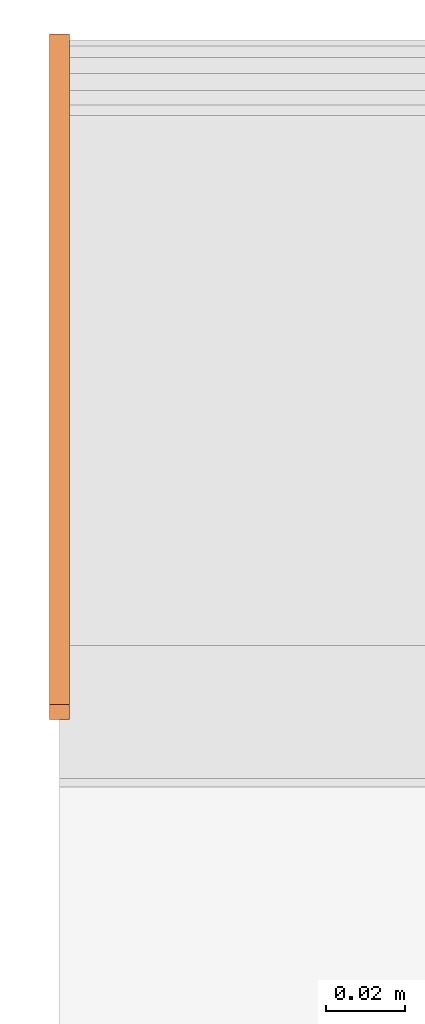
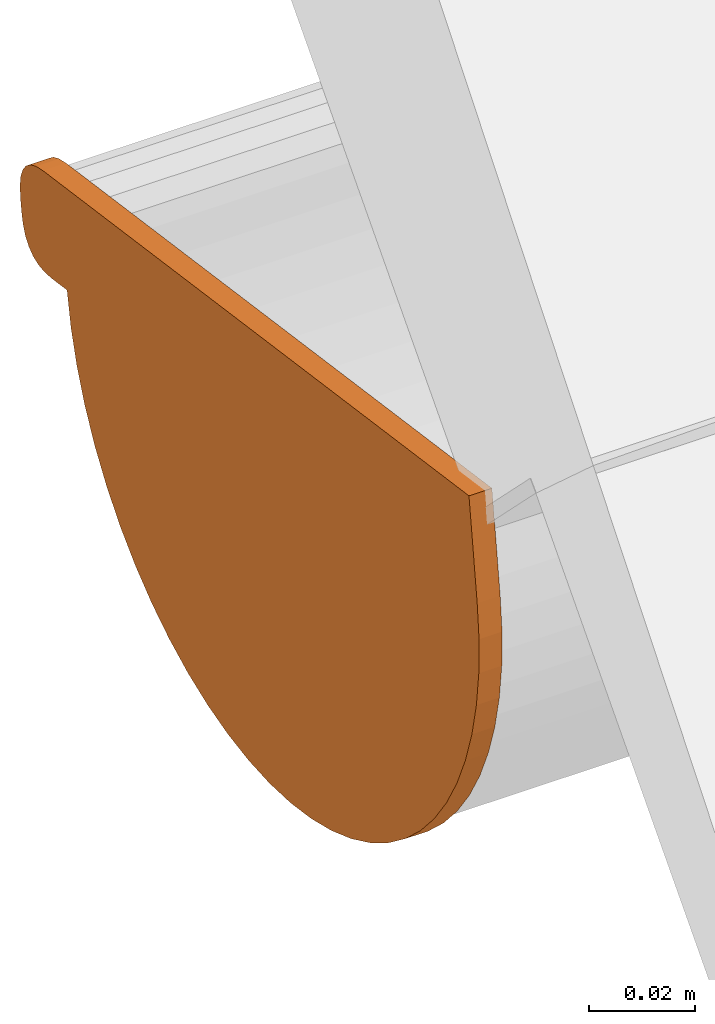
# One storey, part 32 of 43: 1 proxy.
"""IFC2X3 building model written with IfcOpenShell, lengths in millimetres."""

import ifcopenshell
import ifcopenshell.guid

model = None  # the IFC model being written
_history = None  # IfcOwnerHistory: only IFC2X3 demands one
_inside = {}  # id of a spatial element -> (the spatial element, [elements in it])
_under = {}  # id of a project, library or spatial element -> (it, [spatial elements below it])
_declared = {}  # id of a project -> (the project, [libraries it declares])
_typed = {}  # id of a type object -> (the type object, [elements of that type])
_made_of = {}  # id of a material, layer set ... -> (it, [elements and type objects made of it])


def new_model(schema):
    """Start an empty IFC model of exactly this schema.

    Asked for "IFC4X3", IfcOpenShell would pick the latest addendum, in which some entities
    have other attributes; the version numbers below select the first issue.
    IFC2X3 requires an IfcOwnerHistory on every rooted entity: one is made here for all.
    """
    global model, _history
    if schema == "IFC4X3":
        model = ifcopenshell.file(schema_version=(4, 3, 0, 0))
    else:
        model = ifcopenshell.file(schema=schema)
    _inside.clear()
    _under.clear()
    _declared.clear()
    _typed.clear()
    _made_of.clear()
    _history = None
    if model.schema == "IFC2X3":
        org = make("IfcOrganization", Name="unknown")
        user = make(
            "IfcPersonAndOrganization",
            ThePerson=make("IfcPerson", FamilyName="unknown"),
            TheOrganization=org,
        )
        app = make(
            "IfcApplication",
            ApplicationDeveloper=org,
            Version="unknown",
            ApplicationFullName="unknown",
            ApplicationIdentifier="unknown",
        )
        _history = make(
            "IfcOwnerHistory",
            OwningUser=user,
            OwningApplication=app,
            ChangeAction="ADDED",
            CreationDate=0,
        )
    return model


def make(cls, **values):
    """One entity of the class cls with the attributes given. An attribute that is None is left unset."""
    return model.create_entity(
        cls, **{name: value for name, value in values.items() if value is not None}
    )


def rooted(cls, **values):
    """An entity with a GlobalId (a new one), such as an element, a storey or a relation."""
    return make(cls, GlobalId=ifcopenshell.guid.new(), OwnerHistory=_history, **values)


def si_unit(unit_type, name, prefix=None):
    """IfcSIUnit, for example si_unit("LENGTHUNIT", "METRE", prefix="MILLI")."""
    return make("IfcSIUnit", UnitType=unit_type, Prefix=prefix, Name=name)


def assignment(units):
    """IfcUnitAssignment: the units of a project."""
    return None if units is None else make("IfcUnitAssignment", Units=units)


def point(xyz):
    """IfcCartesianPoint."""
    return None if xyz is None else make("IfcCartesianPoint", Coordinates=xyz)


def direction(xyz):
    """IfcDirection."""
    return None if xyz is None else make("IfcDirection", DirectionRatios=xyz)


def frame(location, z_axis=None, x_axis=None):
    """IfcAxis2Placement3D, a coordinate frame: its origin and axes. An axis left out is left unset."""
    return make(
        "IfcAxis2Placement3D",
        Location=point(location),
        Axis=direction(z_axis),
        RefDirection=direction(x_axis),
    )


def origin_with_axes():
    """The frame at (0, 0, 0) with the z axis (0, 0, 1) and the x axis (1, 0, 0) written out."""
    return frame((0.0, 0.0, 0.0), z_axis=(0.0, 0.0, 1.0), x_axis=(1.0, 0.0, 0.0))


def place(relative_to, where):
    """IfcLocalPlacement: puts the frame where relative to a parent placement (None: the world)."""
    return make(
        "IfcLocalPlacement", PlacementRelTo=relative_to, RelativePlacement=where
    )


def context(
    kind, dimensions, precision=None, world=None, true_north=None, identifier=None
):
    """IfcGeometricRepresentationContext, for example the 3D "Model" context."""
    return make(
        "IfcGeometricRepresentationContext",
        ContextIdentifier=identifier,
        ContextType=kind,
        CoordinateSpaceDimension=dimensions,
        Precision=precision,
        WorldCoordinateSystem=world,
        TrueNorth=true_north,
    )


def project(units=None, contexts=None):
    """IfcProject with its units and contexts."""
    return rooted(
        "IfcProject",
        Name="project",
        RepresentationContexts=contexts,
        UnitsInContext=assignment(units),
    )


def spatial(cls, under=None, at=None, **own):
    """A site, building, storey or space (cls), placed at a placement, below another one or the project."""
    s = rooted(cls, ObjectPlacement=at, **own)
    if under is not None:
        _under.setdefault(under.id(), (under, []))[1].append(s)
    return s


def faces_of(points, faces, orient=None, outer=None):
    """IfcFace entities. A face is a list of loops; a loop is a list of indices into points, from 0.

    orient and outer hold one flag for each loop. By default every Orientation is true, the
    first loop of a face is its IfcFaceOuterBound and the others are IfcFaceBound.
    """
    made = []
    for i, loops in enumerate(faces):
        bounds = []
        for j, loop in enumerate(loops):
            is_outer = j == 0 if outer is None else outer[i][j]
            bounds.append(
                make(
                    "IfcFaceOuterBound" if is_outer else "IfcFaceBound",
                    Bound=make("IfcPolyLoop", Polygon=[points[k] for k in loop]),
                    Orientation=True if orient is None else orient[i][j],
                )
            )
        made.append(make("IfcFace", Bounds=bounds))
    return made


def faceted_brep(points, faces, orient=None, outer=None, voids=None):
    """IfcFacetedBrep: a solid bounded by flat faces; with voids (closed shells), ...WithVoids."""
    shared = [point(p) for p in points]
    hull = make("IfcClosedShell", CfsFaces=faces_of(shared, faces, orient, outer))
    if voids is None:
        return make("IfcFacetedBrep", Outer=hull)
    return make(
        "IfcFacetedBrepWithVoids",
        Outer=hull,
        Voids=[
            make(cls, CfsFaces=faces_of(shared, fs, o, b)) for cls, fs, o, b in voids
        ],
    )


def shape(context_of_items, identifier, shape_type, items):
    """IfcShapeRepresentation: the items that make up one representation, for example the "Body"."""
    return make(
        "IfcShapeRepresentation",
        ContextOfItems=context_of_items,
        RepresentationIdentifier=identifier,
        RepresentationType=shape_type,
        Items=items,
    )


def made_of(thing, what):
    """Note that an element or type object is made of a material, layer set ...; save() writes the relation."""
    if what is not None:
        _made_of.setdefault(what.id(), (what, []))[1].append(thing)
    return thing


def element(
    cls,
    number,
    at=None,
    inside=None,
    cuts=None,
    type_object=None,
    material=None,
    context=None,
    identifier="Body",
    shape_type=None,
    held_by="IfcProductDefinitionShape",
    body=None,
    shapes=None,
    **own,
):
    """One element of the class cls, such as IfcWall. Its Tag is "e" and its number.

    at: its placement. inside: the storey or other place that contains it. cuts: it is an
    opening in that element (IfcRelVoidsElement). A single representation is given by context,
    identifier, shape_type and body (its items); several are given by shapes. held_by: the class
    of the entity that holds the representations. save() writes the other relations.
    """
    e = rooted(cls, Tag="e%d" % number, ObjectPlacement=at, **own)
    if body is not None:
        shapes = [shape(context, identifier, shape_type, body)]
    if shapes is not None:
        e.Representation = make(held_by, Representations=shapes)
    if inside is not None:
        _inside.setdefault(inside.id(), (inside, []))[1].append(e)
    if cuts is not None:
        rooted(
            "IfcRelVoidsElement", RelatingBuildingElement=cuts, RelatedOpeningElement=e
        )
    if type_object is not None:
        _typed.setdefault(type_object.id(), (type_object, []))[1].append(e)
    return made_of(e, material)


def aggregate(whole, parts):
    """IfcRelAggregates: a whole, such as a stair, and the parts it consists of."""
    return rooted("IfcRelAggregates", RelatingObject=whole, RelatedObjects=parts)


def save(model, path):
    """Write the relations noted so far, then the file.

    IfcRelAggregates (storeys below a building ...), IfcRelContainedInSpatialStructure (elements
    in a storey), IfcRelDefinesByType, IfcRelAssociatesMaterial and IfcRelDeclares: one each for
    every whole, place, type object, material and project.
    """
    for whole, parts in _under.values():
        aggregate(whole, parts)
    for where, things in _inside.values():
        rooted(
            "IfcRelContainedInSpatialStructure",
            RelatedElements=things,
            RelatingStructure=where,
        )
    for kind, things in _typed.values():
        rooted("IfcRelDefinesByType", RelatedObjects=things, RelatingType=kind)
    for what, things in _made_of.values():
        rooted("IfcRelAssociatesMaterial", RelatedObjects=things, RelatingMaterial=what)
    for by, libraries in _declared.values():
        rooted("IfcRelDeclares", RelatingContext=by, RelatedDefinitions=libraries)
    model.write(path)


model = new_model("IFC2X3")

# Units and contexts
model_context = context("Model", 3, world=origin_with_axes())
ifc_project = project(units=[si_unit("LENGTHUNIT", "METRE", prefix="MILLI")], contexts=[model_context])

# Site, building, storey
site_placement = place(None, origin_with_axes())
site = spatial("IfcSite", under=ifc_project, at=site_placement, Name="Site", CompositionType="ELEMENT")
building_placement = place(site_placement, origin_with_axes())
building = spatial("IfcBuilding", under=site, at=building_placement, Name="?", CompositionType="ELEMENT")
storey_placement = place(building_placement, frame((0.0, 0.0, 5938.0), z_axis=(0.0, 0.0, 1.0), x_axis=(1.0, 0.0, 0.0)))
storey = spatial("IfcBuildingStorey", under=building, at=storey_placement, Name="Dachgeschoß", CompositionType="ELEMENT", Elevation=5938.0)

# Proxy
proxy_placement = place(None, origin_with_axes())
element("IfcBuildingElementProxy", 1, at=proxy_placement, inside=storey, Name="Dach04_RoofGutter#013", ObjectType="gutter", CompositionType="ELEMENT", context=model_context, shape_type="Brep", body=[
    faceted_brep([(-302.5, 656.250915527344, 6644.93896484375), (-297.5, 656.250915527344, 6644.93896484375), (-297.5, 654.756415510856, 6637.18036494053), (-302.5, 654.756415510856, 6637.18036494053), (-302.5, 654.756408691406, 6637.18017578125), (-297.5, 654.756408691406, 6637.18017578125), (-297.5, 652.484608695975, 6629.61247599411), (-302.5, 652.484608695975, 6629.61247599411), (-302.5, 652.484619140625, 6629.6123046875), (-297.5, 652.484619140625, 6629.6123046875), (-297.5, 649.458919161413, 6622.31340452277), (-302.5, 649.458919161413, 6622.31340452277), (-302.5, 649.458923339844, 6622.3134765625), (-297.5, 649.458923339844, 6622.3134765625), (-297.5, 645.710223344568, 6615.3580766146), (-302.5, 645.710223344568, 6615.3580766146), (-302.5, 645.710205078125, 6615.35791015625), (-297.5, 645.710205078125, 6615.35791015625), (-297.5, 641.277104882, 6608.817410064), (-302.5, 641.277104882, 6608.817410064), (-302.5, 641.277099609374, 6608.81787109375), (-297.5, 641.277099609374, 6608.81787109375), (-297.5, 636.205099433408, 6602.75937116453), (-302.5, 636.205099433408, 6602.75937116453), (-302.5, 636.205078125, 6602.75927734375), (-297.5, 636.205078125, 6602.75927734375), (-297.5, 630.546178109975, 6597.24507732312), (-302.5, 630.546178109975, 6597.24507732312), (-302.5, 630.546203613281, 6597.2451171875), (-297.5, 630.546203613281, 6597.2451171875), (-297.5, 624.358403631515, 6592.33171697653), (-302.5, 624.358403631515, 6592.33171697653), (-302.5, 624.3583984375, 6592.33154296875), (-297.5, 624.3583984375, 6592.33154296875), (-297.5, 617.705398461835, 6588.06924304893), (-302.5, 617.705398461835, 6588.06924304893), (-302.5, 617.705383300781, 6588.0693359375), (-297.5, 617.705383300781, 6588.0693359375), (-297.5, 610.655183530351, 6584.50213591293), (-302.5, 610.655183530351, 6584.50213591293), (-302.5, 610.655212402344, 6584.501953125), (-297.5, 610.655212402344, 6584.501953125), (-297.5, 603.280312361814, 6581.66625324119), (-302.5, 603.280312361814, 6581.66625324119), (-302.5, 603.2802734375, 6581.66650390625), (-297.5, 603.2802734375, 6581.66650390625), (-297.5, 595.656373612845, 6579.59140394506), (-302.5, 595.656373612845, 6579.59140394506), (-302.5, 595.656372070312, 6579.59130859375), (-297.5, 595.656372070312, 6579.59130859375), (-297.5, 587.861672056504, 6578.29820858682), (-302.5, 587.861672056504, 6578.29820858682), (-302.5, 587.861694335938, 6578.29833984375), (-297.5, 587.861694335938, 6578.29833984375), (-297.5, 579.976094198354, 6577.80043982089), (-302.5, 579.976094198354, 6577.80043982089), (-302.5, 579.97607421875, 6577.80029296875), (-297.5, 579.97607421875, 6577.80029296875), (-297.5, 572.080574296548, 6578.10269295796), (-302.5, 572.080574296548, 6578.10269295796), (-302.5, 572.080627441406, 6578.1025390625), (-297.5, 572.080627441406, 6578.1025390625), (-297.5, 564.256227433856, 6579.20223903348), (-302.5, 564.256227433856, 6579.20223903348), (-302.5, 564.256225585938, 6579.2021484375), (-297.5, 564.256225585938, 6579.2021484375), (-297.5, 556.583225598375, 6581.08764841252), (-302.5, 556.583225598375, 6581.08764841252), (-302.5, 556.583190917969, 6581.087890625), (-297.5, 556.583190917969, 6581.087890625), (-297.5, 549.140391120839, 6583.74009059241), (-302.5, 549.140391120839, 6583.74009059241), (-302.5, 549.140380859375, 6583.740234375), (-297.5, 549.140380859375, 6583.740234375), (-297.5, 542.003980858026, 6587.13183440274), (-302.5, 542.003980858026, 6587.13183440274), (-302.5, 542.004028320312, 6587.1318359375), (-297.5, 542.004028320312, 6587.1318359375), (-297.5, 535.247428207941, 6591.22793584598), (-302.5, 535.247428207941, 6591.22793584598), (-302.5, 535.247375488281, 6591.2275390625), (-297.5, 535.247375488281, 6591.2275390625), (-297.5, 528.939875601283, 6595.98613897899), (-302.5, 528.939875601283, 6595.98613897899), (-302.5, 528.939880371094, 6595.986328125), (-297.5, 528.939880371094, 6595.986328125), (-297.5, 523.146080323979, 6601.35872833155), (-302.5, 523.146080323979, 6601.35872833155), (-302.5, 523.146118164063, 6601.35888671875), (-297.5, 523.146118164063, 6601.35888671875), (-297.5, 517.925618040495, 6607.28988671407), (-302.5, 517.925618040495, 6607.28988671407), (-302.5, 517.925598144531, 6607.28955078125), (-297.5, 517.925598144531, 6607.28955078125), (-297.5, 513.331798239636, 6613.71815090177), (-302.5, 513.331798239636, 6613.71815090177), (-302.5, 513.331787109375, 6613.71826171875), (-297.5, 513.331787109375, 6613.71826171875), (-297.5, 509.412087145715, 6620.57876151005), (-302.5, 509.412087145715, 6620.57876151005), (-302.5, 509.412109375, 6620.57861328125), (-297.5, 509.412109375, 6620.57861328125), (-297.5, 506.206509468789, 6627.80031313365), (-302.5, 506.206509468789, 6627.80031313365), (-302.5, 506.206512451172, 6627.80078125), (-297.5, 506.206512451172, 6627.80078125), (-297.5, 503.747912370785, 6635.30988116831), (-302.5, 503.747912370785, 6635.30988116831), (-302.5, 503.747894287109, 6635.3095703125), (-297.5, 503.747894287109, 6635.3095703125), (-297.5, 502.061694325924, 6643.02877046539), (-302.5, 502.061694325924, 6643.02877046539), (-302.5, 502.061706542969, 6643.02880859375), (-297.5, 502.061706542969, 6643.02880859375), (-297.5, 501.165006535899, 6650.87910882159), (-302.5, 501.165006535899, 6650.87910882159), (-302.5, 501.165008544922, 6650.87939453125), (-297.5, 501.165008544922, 6650.87939453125), (-297.5, 501.067208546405, 6658.77999466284), (-302.5, 501.067208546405, 6658.77999466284), (-302.5, 501.067199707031, 6658.77978515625), (-297.5, 501.067199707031, 6658.77978515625), (-297.5, 501.769099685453, 6666.64988526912), (-302.5, 501.769099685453, 6666.64988526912), (-302.5, 501.769104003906, 6666.64990234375), (-297.5, 501.769104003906, 6666.64990234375), (-297.5, 579.010002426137, 6655.79430188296), (-302.5, 579.010002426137, 6655.79430188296), (-302.5, 579.010009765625, 6655.79443359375), (-297.5, 579.010009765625, 6655.79443359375), (-297.5, 656.250908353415, 6644.93893386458), (-302.5, 656.250908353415, 6644.93893386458), (-297.5, 502.061706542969, 6643.02880859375), (-297.5, 579.010006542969, 6655.79420859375), (-297.5, 501.769106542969, 6666.64980859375), (-297.5, 501.067206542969, 6658.77970859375), (-297.5, 502.061706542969, 6643.02880859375), (-297.5, 501.067206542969, 6658.77970859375), (-297.5, 501.165006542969, 6650.87910859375), (-297.5, 513.331787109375, 6613.71826171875), (-297.5, 502.061687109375, 6643.02876171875), (-297.5, 503.747887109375, 6635.30956171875), (-297.5, 506.206487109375, 6627.80046171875), (-297.5, 513.331787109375, 6613.71826171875), (-297.5, 506.206487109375, 6627.80046171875), (-297.5, 509.412087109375, 6620.57876171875), (-297.5, 564.256225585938, 6579.2021484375), (-297.5, 579.010025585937, 6655.7940484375), (-297.5, 502.061725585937, 6643.0286484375), (-297.5, 513.331825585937, 6613.7181484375), (-297.5, 535.247375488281, 6591.2275390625), (-297.5, 513.331775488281, 6613.7181390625), (-297.5, 517.925575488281, 6607.2895390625), (-297.5, 523.146075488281, 6601.3585390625), (-297.5, 535.247375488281, 6591.2275390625), (-297.5, 523.146075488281, 6601.3585390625), (-297.5, 528.939875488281, 6595.9861390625), (-297.5, 564.256225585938, 6579.2021484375), (-297.5, 535.247425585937, 6591.2275484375), (-297.5, 542.004025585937, 6587.1314484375), (-297.5, 549.140425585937, 6583.7398484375), (-297.5, 564.256225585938, 6579.2021484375), (-297.5, 549.140425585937, 6583.7398484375), (-297.5, 556.583225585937, 6581.0876484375), (-297.5, 564.256225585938, 6579.2021484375), (-297.5, 513.331825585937, 6613.7181484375), (-297.5, 535.247425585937, 6591.2275484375), (-297.5, 595.656372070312, 6579.59130859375), (-297.5, 564.256172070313, 6579.20240859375), (-297.5, 572.080572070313, 6578.10270859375), (-297.5, 579.976072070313, 6577.80030859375), (-297.5, 595.656372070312, 6579.59130859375), (-297.5, 579.976072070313, 6577.80030859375), (-297.5, 587.861672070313, 6578.29820859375), (-297.5, 624.3583984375, 6592.33154296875), (-297.5, 595.6563984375, 6579.59124296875), (-297.5, 603.2802984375, 6581.66634296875), (-297.5, 610.6551984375, 6584.50204296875), (-297.5, 624.3583984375, 6592.33154296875), (-297.5, 610.6551984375, 6584.50204296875), (-297.5, 617.7053984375, 6588.06924296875), (-297.5, 579.010009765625, 6655.79443359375), (-297.5, 564.256209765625, 6579.20253359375), (-297.5, 595.656409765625, 6579.59143359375), (-297.5, 624.358409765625, 6592.33173359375), (-297.5, 645.710205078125, 6615.35791015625), (-297.5, 624.358405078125, 6592.33131015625), (-297.5, 630.546205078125, 6597.24471015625), (-297.5, 636.205105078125, 6602.75891015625), (-297.5, 645.710205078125, 6615.35791015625), (-297.5, 636.205105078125, 6602.75891015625), (-297.5, 641.277105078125, 6608.81741015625), (-297.5, 652.484619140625, 6629.6123046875), (-297.5, 579.010019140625, 6655.7941046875), (-297.5, 624.358419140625, 6592.3314046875), (-297.5, 645.710219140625, 6615.3580046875), (-297.5, 652.484619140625, 6629.6123046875), (-297.5, 645.710219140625, 6615.3580046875), (-297.5, 649.458919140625, 6622.3134046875), (-297.5, 656.250915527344, 6644.93896484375), (-297.5, 579.010015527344, 6655.79446484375), (-297.5, 652.484615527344, 6629.61266484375), (-297.5, 654.756415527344, 6637.18036484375), (-302.5, 641.277099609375, 6608.81787109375), (-302.5, 654.756399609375, 6637.18037109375), (-302.5, 652.484599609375, 6629.61267109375), (-302.5, 649.458899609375, 6622.31377109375), (-302.5, 641.277099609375, 6608.81787109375), (-302.5, 649.458899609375, 6622.31377109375), (-302.5, 645.710199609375, 6615.35837109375), (-302.5, 617.705383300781, 6588.0693359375), (-302.5, 641.277083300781, 6608.8177359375), (-302.5, 636.205083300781, 6602.7592359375), (-302.5, 630.546183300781, 6597.2450359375), (-302.5, 617.705383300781, 6588.0693359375), (-302.5, 630.546183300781, 6597.2450359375), (-302.5, 624.358383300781, 6592.3316359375), (-302.5, 556.583190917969, 6581.087890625), (-302.5, 654.756390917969, 6637.180190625), (-302.5, 641.277090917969, 6608.817690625), (-302.5, 617.705390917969, 6588.069290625), (-302.5, 587.861694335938, 6578.29833984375), (-302.5, 617.705394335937, 6588.06943984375), (-302.5, 610.655194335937, 6584.50223984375), (-302.5, 603.280294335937, 6581.66653984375), (-302.5, 587.861694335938, 6578.29833984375), (-302.5, 603.280294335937, 6581.66653984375), (-302.5, 595.656394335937, 6579.59143984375), (-302.5, 556.583190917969, 6581.087890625), (-302.5, 587.861690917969, 6578.298190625), (-302.5, 579.976090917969, 6577.800290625), (-302.5, 572.080590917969, 6578.102690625), (-302.5, 556.583190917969, 6581.087890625), (-302.5, 572.080590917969, 6578.102690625), (-302.5, 564.256190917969, 6579.202390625), (-302.5, 556.583190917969, 6581.087890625), (-302.5, 617.705390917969, 6588.069290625), (-302.5, 587.861690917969, 6578.298190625), (-302.5, 528.939880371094, 6595.986328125), (-302.5, 556.583180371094, 6581.087828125), (-302.5, 549.140380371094, 6583.740028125), (-302.5, 542.003980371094, 6587.131628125), (-302.5, 528.939880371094, 6595.986328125), (-302.5, 542.003980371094, 6587.131628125), (-302.5, 535.247380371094, 6591.227728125), (-302.5, 509.412109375, 6620.57861328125), (-302.5, 528.939909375, 6595.98611328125), (-302.5, 523.146109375, 6601.35851328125), (-302.5, 517.925609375, 6607.28951328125), (-302.5, 509.412109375, 6620.57861328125), (-302.5, 517.925609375, 6607.28951328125), (-302.5, 513.331809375, 6613.71811328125), (-302.5, 654.756408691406, 6637.18017578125), (-302.5, 556.583208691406, 6581.08787578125), (-302.5, 528.939908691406, 6595.98637578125), (-302.5, 509.412108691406, 6620.57887578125), (-302.5, 501.165008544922, 6650.87939453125), (-302.5, 509.412108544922, 6620.57909453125), (-302.5, 506.206508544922, 6627.80079453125), (-302.5, 503.747908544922, 6635.30989453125), (-302.5, 501.165008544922, 6650.87939453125), (-302.5, 503.747908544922, 6635.30989453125), (-302.5, 502.061708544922, 6643.02909453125), (-302.5, 501.769104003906, 6666.64990234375), (-302.5, 654.756404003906, 6637.18020234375), (-302.5, 509.412104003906, 6620.57890234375), (-302.5, 501.165004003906, 6650.87920234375), (-302.5, 501.769104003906, 6666.64990234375), (-302.5, 501.165004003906, 6650.87920234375), (-302.5, 501.067204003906, 6658.77980234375), (-302.5, 656.250915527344, 6644.93896484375), (-302.5, 654.756415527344, 6637.18036484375), (-302.5, 501.769115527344, 6666.65006484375), (-302.5, 579.010015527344, 6655.79446484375), (-297.5, 501.769104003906, 6666.64990234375), (-302.5, 501.769104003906, 6666.64990234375), (-302.5, 662.090608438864, 6644.10700284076), (-297.5, 662.090608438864, 6644.10700284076), (-302.5, 665.291625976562, 6666.88330078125), (-302.5, 504.867225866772, 6689.4295002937), (-297.5, 504.867225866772, 6689.4295002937), (-297.5, 665.291625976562, 6666.88330078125), (-302.5, 504.8671875, 6689.42919921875), (-302.5, 501.769087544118, 6666.64969977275), (-297.5, 501.769087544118, 6666.64969977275), (-297.5, 504.8671875, 6689.42919921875), (-297.5, 667.054016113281, 6644.23388671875), (-297.5, 501.769116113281, 6666.65008671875), (-297.5, 662.090616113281, 6644.10718671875), (-297.5, 664.746016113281, 6643.94008671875), (-297.5, 670.627990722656, 6646.2041015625), (-297.5, 501.769090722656, 6666.6498015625), (-297.5, 667.053990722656, 6644.2336015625), (-297.5, 669.014690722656, 6644.9884015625), (-297.5, 672.812622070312, 6650.0185546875), (-297.5, 501.769122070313, 6666.6499546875), (-297.5, 670.628022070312, 6646.2042546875), (-297.5, 671.894022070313, 6647.8809546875), (-297.5, 665.291625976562, 6666.88330078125), (-297.5, 501.769125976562, 6666.65000078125), (-297.5, 672.812625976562, 6650.01860078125), (-297.5, 673.383925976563, 6652.61720078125), (-297.5, 673.674987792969, 6660.55322265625), (-297.5, 673.383887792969, 6652.61702265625), (-297.5, 673.801687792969, 6655.58982265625), (-297.5, 673.968787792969, 6658.24522265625), (-297.5, 671.704528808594, 6664.12744140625), (-297.5, 673.383928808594, 6652.61724140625), (-297.5, 673.675028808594, 6660.55344140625), (-297.5, 672.920228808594, 6662.51414140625), (-297.5, 667.890197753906, 6666.31201171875), (-297.5, 673.383897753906, 6652.61721171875), (-297.5, 671.704497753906, 6664.12741171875), (-297.5, 670.027797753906, 6665.39341171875), (-297.5, 665.291625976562, 6666.88330078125), (-297.5, 673.383925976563, 6652.61720078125), (-297.5, 667.890225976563, 6666.31200078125), (-297.5, 504.8671875, 6689.42919921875), (-297.5, 501.7690875, 6666.64969921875), (-297.5, 665.2915875, 6666.88299921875), (-297.5, 673.801696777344, 6655.58984375), (-297.5, 673.383896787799, 6652.61704377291), (-302.5, 673.383896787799, 6652.61704377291), (-302.5, 673.801696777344, 6655.58984375), (-302.5, 673.801696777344, 6655.58984375), (-302.5, 662.090596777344, 6644.10694375), (-302.5, 501.769096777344, 6666.64984375), (-302.5, 504.867196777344, 6689.42934375), (-302.5, 670.027770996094, 6665.39306640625), (-302.5, 504.867170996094, 6689.42916640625), (-302.5, 665.291570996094, 6666.88296640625), (-302.5, 667.890170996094, 6666.31166640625), (-302.5, 672.920227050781, 6662.51416015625), (-302.5, 504.867227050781, 6689.42956015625), (-302.5, 670.027827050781, 6665.39346015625), (-302.5, 671.704527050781, 6664.12746015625), (-302.5, 673.968811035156, 6658.2451171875), (-302.5, 504.867211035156, 6689.4292171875), (-302.5, 672.920211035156, 6662.5138171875), (-302.5, 673.675011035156, 6660.5531171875), (-302.5, 673.801696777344, 6655.58984375), (-302.5, 504.867196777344, 6689.42934375), (-302.5, 673.968796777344, 6658.24524375), (-302.5, 667.054016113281, 6644.23388671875), (-302.5, 664.746016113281, 6643.94008671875), (-302.5, 662.090616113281, 6644.10718671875), (-302.5, 673.801716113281, 6655.59008671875), (-302.5, 670.627990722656, 6646.2041015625), (-302.5, 669.014690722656, 6644.9884015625), (-302.5, 667.053990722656, 6644.2336015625), (-302.5, 673.801690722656, 6655.5898015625), (-302.5, 672.812622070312, 6650.0185546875), (-302.5, 671.894022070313, 6647.8809546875), (-302.5, 670.628022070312, 6646.2042546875), (-302.5, 673.801722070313, 6655.5899546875), (-302.5, 673.801696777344, 6655.58984375), (-302.5, 673.383896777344, 6652.61704375), (-302.5, 672.812596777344, 6650.01844375), (-302.5, 664.745971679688, 6643.93994140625), (-297.5, 664.745971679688, 6643.93994140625), (-297.5, 662.090571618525, 6644.10704139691), (-302.5, 662.090571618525, 6644.10704139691), (-297.5, 667.890197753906, 6666.31201171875), (-302.5, 667.890197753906, 6666.31201171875), (-302.5, 665.291597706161, 6666.88331171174), (-297.5, 665.291597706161, 6666.88331171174), (-302.5, 667.054016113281, 6644.23388671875), (-297.5, 667.054016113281, 6644.23388671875), (-297.5, 664.746016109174, 6643.9400867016), (-302.5, 664.746016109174, 6643.9400867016), (-302.5, 669.014709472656, 6644.98828125), (-297.5, 669.014709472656, 6644.98828125), (-297.5, 667.054009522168, 6644.23348128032), (-302.5, 667.054009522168, 6644.23348128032), (-302.5, 670.627990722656, 6646.2041015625), (-297.5, 670.627990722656, 6646.2041015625), (-297.5, 669.014690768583, 6644.98840159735), (-302.5, 669.014690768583, 6644.98840159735), (-302.5, 671.893981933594, 6647.880859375), (-297.5, 671.893981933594, 6647.880859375), (-297.5, 670.627981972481, 6646.20415938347), (-302.5, 670.627981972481, 6646.20415938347), (-302.5, 672.812622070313, 6650.0185546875), (-297.5, 672.812622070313, 6650.0185546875), (-297.5, 671.894022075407, 6647.88095474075), (-302.5, 671.894022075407, 6647.88095474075), (-302.5, 673.383911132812, 6652.6171875), (-297.5, 673.383911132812, 6652.6171875), (-297.5, 672.812611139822, 6650.01858745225), (-302.5, 672.812611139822, 6650.01858745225), (-297.5, 670.027770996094, 6665.39306640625), (-302.5, 670.027770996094, 6665.39306640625), (-302.5, 667.890171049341, 6666.31166640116), (-297.5, 667.890171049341, 6666.31166640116), (-297.5, 671.704528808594, 6664.12744140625), (-302.5, 671.704528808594, 6664.12744140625), (-302.5, 670.027828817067, 6665.39344136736), (-297.5, 670.027828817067, 6665.39344136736), (-297.5, 672.920227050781, 6662.51416015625), (-302.5, 672.920227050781, 6662.51416015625), (-302.5, 671.704527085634, 6664.12746011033), (-297.5, 671.704527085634, 6664.12746011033), (-297.5, 673.674987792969, 6660.55322265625), (-302.5, 673.674987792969, 6660.55322265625), (-302.5, 672.920187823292, 6662.51392260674), (-297.5, 672.920187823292, 6662.51392260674), (-297.5, 673.968811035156, 6658.2451171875), (-302.5, 673.968811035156, 6658.2451171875), (-302.5, 673.675011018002, 6660.55311719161), (-297.5, 673.675011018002, 6660.55311719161), (-297.5, 673.801696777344, 6655.58984375), (-302.5, 673.801696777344, 6655.58984375), (-302.5, 673.968796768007, 6658.24524381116), (-297.5, 673.968796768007, 6658.24524381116)], [[[0, 1, 2, 3]], [[4, 5, 6, 7]], [[8, 9, 10, 11]], [[12, 13, 14, 15]], [[16, 17, 18, 19]], [[20, 21, 22, 23]], [[24, 25, 26, 27]], [[28, 29, 30, 31]], [[32, 33, 34, 35]], [[36, 37, 38, 39]], [[40, 41, 42, 43]], [[44, 45, 46, 47]], [[48, 49, 50, 51]], [[52, 53, 54, 55]], [[56, 57, 58, 59]], [[60, 61, 62, 63]], [[64, 65, 66, 67]], [[68, 69, 70, 71]], [[72, 73, 74, 75]], [[76, 77, 78, 79]], [[80, 81, 82, 83]], [[84, 85, 86, 87]], [[88, 89, 90, 91]], [[92, 93, 94, 95]], [[96, 97, 98, 99]], [[100, 101, 102, 103]], [[104, 105, 106, 107]], [[108, 109, 110, 111]], [[112, 113, 114, 115]], [[116, 117, 118, 119]], [[120, 121, 122, 123]], [[124, 125, 126, 127]], [[128, 129, 130, 131]], [[132, 133, 134, 135]], [[136, 137, 138]], [[139, 140, 141, 142]], [[143, 144, 145]], [[146, 147, 148, 149]], [[150, 151, 152, 153]], [[154, 155, 156]], [[157, 158, 159, 160]], [[161, 162, 163]], [[164, 165, 166]], [[167, 168, 169, 170]], [[171, 172, 173]], [[174, 175, 176, 177]], [[178, 179, 180]], [[181, 182, 183, 184]], [[185, 186, 187, 188]], [[189, 190, 191]], [[192, 193, 194, 195]], [[196, 197, 198]], [[199, 200, 201, 202]], [[203, 204, 205, 206]], [[207, 208, 209]], [[210, 211, 212, 213]], [[214, 215, 216]], [[217, 218, 219, 220]], [[221, 222, 223, 224]], [[225, 226, 227]], [[228, 229, 230, 231]], [[232, 233, 234]], [[235, 236, 237]], [[238, 239, 240, 241]], [[242, 243, 244]], [[245, 246, 247, 248]], [[249, 250, 251]], [[252, 253, 254, 255]], [[256, 257, 258, 259]], [[260, 261, 262]], [[263, 264, 265, 266]], [[267, 268, 269]], [[270, 271, 272, 273]], [[274, 275, 276, 277]], [[278, 279, 280, 281]], [[282, 283, 284, 285]], [[286, 287, 288, 289]], [[290, 291, 292, 293]], [[294, 295, 296, 297]], [[298, 299, 300, 301]], [[302, 303, 304, 305]], [[306, 307, 308, 309]], [[310, 311, 312, 313]], [[314, 315, 316]], [[317, 318, 319]], [[320, 321, 322, 323]], [[324, 325, 326, 327]], [[328, 329, 330, 331]], [[332, 333, 334, 335]], [[336, 337, 338, 339]], [[340, 341, 342]], [[343, 344, 345, 346]], [[347, 348, 349, 350]], [[351, 352, 353, 354]], [[355, 356, 357]], [[358, 359, 360, 361]], [[362, 363, 364, 365]], [[366, 367, 368, 369]], [[370, 371, 372, 373]], [[374, 375, 376, 377]], [[378, 379, 380, 381]], [[382, 383, 384, 385]], [[386, 387, 388, 389]], [[390, 391, 392, 393]], [[394, 395, 396, 397]], [[398, 399, 400, 401]], [[402, 403, 404, 405]], [[406, 407, 408, 409]], [[410, 411, 412, 413]]]),
])

save(model, "model.ifc")
